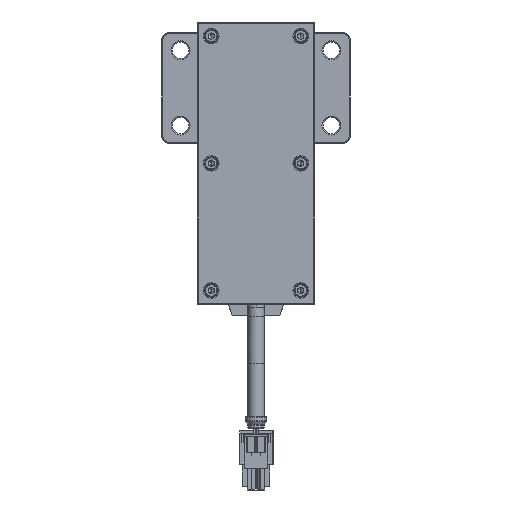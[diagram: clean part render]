
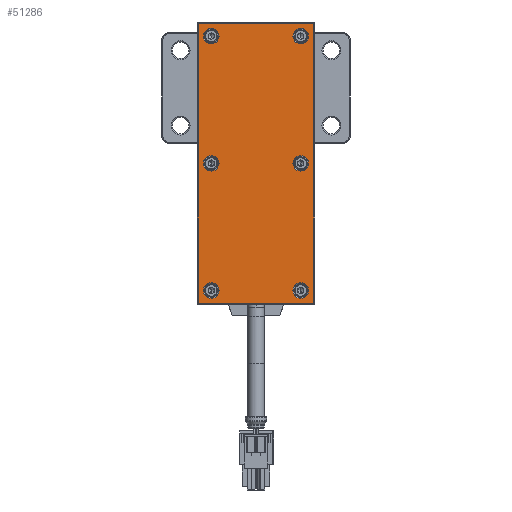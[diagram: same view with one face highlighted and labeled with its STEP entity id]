
A CAD part, front view. The second image highlights one B-rep face of the part: STEP entity #51286.
In plain terms, the highlighted planar face has unit normal (0, -1, 0).
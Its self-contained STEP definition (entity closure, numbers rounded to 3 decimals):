
#49875=CARTESIAN_POINT('',(59.,-4.5,-24.));
#49876=DIRECTION('',(0.,-1.,0.));
#49877=DIRECTION('',(0.,0.,-1.));
#49878=AXIS2_PLACEMENT_3D('',#49875,#49876,#49877);
#49880=DIRECTION('',(1.,0.,0.));
#49881=VECTOR('',#49880,118.);
#49882=CARTESIAN_POINT('',(-59.,-4.5,
-24.5));
#49883=LINE('',#49882,#49881);
#49884=CARTESIAN_POINT('',(-59.,-4.5,-24.));
#49885=DIRECTION('',(0.,-1.,0.));
#49886=DIRECTION('',(-1.,0.,0.));
#49887=AXIS2_PLACEMENT_3D('',#49884,#49885,#49886);
#49889=DIRECTION('',(0.,0.,-1.));
#49890=VECTOR('',#49889,48.);
#49891=CARTESIAN_POINT('',(-59.5,-4.5,
24.));
#49892=LINE('',#49891,#49890);
#49893=CARTESIAN_POINT('',(-59.,-4.5,24.));
#49894=DIRECTION('',(0.,-1.,0.));
#49895=DIRECTION('',(0.,0.,1.));
#49896=AXIS2_PLACEMENT_3D('',#49893,#49894,#49895);
#49898=DIRECTION('',(-1.,0.,0.));
#49899=VECTOR('',#49898,118.);
#49900=CARTESIAN_POINT('',(59.,-4.5,
24.5));
#49901=LINE('',#49900,#49899);
#49902=CARTESIAN_POINT('',(59.,-4.5,24.));
#49903=DIRECTION('',(0.,-1.,0.));
#49904=DIRECTION('',(1.,0.,0.));
#49905=AXIS2_PLACEMENT_3D('',#49902,#49903,#49904);
#49907=DIRECTION('',(0.,0.,1.));
#49908=VECTOR('',#49907,48.);
#49909=CARTESIAN_POINT('',(59.5,-4.5,
-24.));
#49910=LINE('',#49909,#49908);
#49911=CARTESIAN_POINT('',(-54.,-4.5,-19.));
#49912=DIRECTION('',(0.,1.,0.));
#49913=DIRECTION('',(1.,0.,0.));
#49914=AXIS2_PLACEMENT_3D('',#49911,#49912,#49913);
#49916=CARTESIAN_POINT('',(-54.,-4.5,-19.));
#49917=DIRECTION('',(0.,1.,0.));
#49918=DIRECTION('',(-1.,0.,0.));
#49919=AXIS2_PLACEMENT_3D('',#49916,#49917,#49918);
#49921=CARTESIAN_POINT('',(0.,-4.5,-19.));
#49922=DIRECTION('',(0.,1.,0.));
#49923=DIRECTION('',(1.,0.,0.));
#49924=AXIS2_PLACEMENT_3D('',#49921,#49922,#49923);
#49926=CARTESIAN_POINT('',(0.,-4.5,-19.));
#49927=DIRECTION('',(0.,1.,0.));
#49928=DIRECTION('',(-1.,0.,0.));
#49929=AXIS2_PLACEMENT_3D('',#49926,#49927,#49928);
#49931=CARTESIAN_POINT('',(54.,-4.5,-19.));
#49932=DIRECTION('',(0.,1.,0.));
#49933=DIRECTION('',(1.,0.,0.));
#49934=AXIS2_PLACEMENT_3D('',#49931,#49932,#49933);
#49936=CARTESIAN_POINT('',(54.,-4.5,-19.));
#49937=DIRECTION('',(0.,1.,0.));
#49938=DIRECTION('',(-1.,0.,0.));
#49939=AXIS2_PLACEMENT_3D('',#49936,#49937,#49938);
#49941=CARTESIAN_POINT('',(54.,-4.5,19.));
#49942=DIRECTION('',(0.,1.,0.));
#49943=DIRECTION('',(1.,0.,0.));
#49944=AXIS2_PLACEMENT_3D('',#49941,#49942,#49943);
#49946=CARTESIAN_POINT('',(54.,-4.5,19.));
#49947=DIRECTION('',(0.,1.,0.));
#49948=DIRECTION('',(-1.,0.,0.));
#49949=AXIS2_PLACEMENT_3D('',#49946,#49947,#49948);
#49951=CARTESIAN_POINT('',(0.,-4.5,19.));
#49952=DIRECTION('',(0.,1.,0.));
#49953=DIRECTION('',(1.,0.,0.));
#49954=AXIS2_PLACEMENT_3D('',#49951,#49952,#49953);
#49956=CARTESIAN_POINT('',(0.,-4.5,19.));
#49957=DIRECTION('',(0.,1.,0.));
#49958=DIRECTION('',(-1.,0.,0.));
#49959=AXIS2_PLACEMENT_3D('',#49956,#49957,#49958);
#49961=CARTESIAN_POINT('',(-54.,-4.5,19.));
#49962=DIRECTION('',(0.,1.,0.));
#49963=DIRECTION('',(1.,0.,0.));
#49964=AXIS2_PLACEMENT_3D('',#49961,#49962,#49963);
#49966=CARTESIAN_POINT('',(-54.,-4.5,19.));
#49967=DIRECTION('',(0.,1.,0.));
#49968=DIRECTION('',(-1.,0.,0.));
#49969=AXIS2_PLACEMENT_3D('',#49966,#49967,#49968);
#51027=CARTESIAN_POINT('',(59.,-4.5,-24.5));
#51028=CARTESIAN_POINT('',(59.5,-4.5,-24.));
#51029=VERTEX_POINT('',#51027);
#51030=VERTEX_POINT('',#51028);
#51035=CARTESIAN_POINT('',(59.5,-4.5,
24.));
#51036=VERTEX_POINT('',#51035);
#51039=CARTESIAN_POINT('',(59.,-4.5,24.5));
#51040=VERTEX_POINT('',#51039);
#51043=CARTESIAN_POINT('',(-59.,-4.5,
24.5));
#51044=VERTEX_POINT('',#51043);
#51047=CARTESIAN_POINT('',(-59.5,-4.5,24.));
#51048=VERTEX_POINT('',#51047);
#51051=CARTESIAN_POINT('',(-59.5,-4.5,
-24.));
#51052=VERTEX_POINT('',#51051);
#51055=CARTESIAN_POINT('',(-59.,-4.5,-24.5));
#51056=VERTEX_POINT('',#51055);
#51083=CARTESIAN_POINT('',(-50.7,-4.5,-19.));
#51084=CARTESIAN_POINT('',(-57.3,-4.5,-19.));
#51085=VERTEX_POINT('',#51083);
#51086=VERTEX_POINT('',#51084);
#51099=CARTESIAN_POINT('',(3.3,-4.5,-19.));
#51100=CARTESIAN_POINT('',(-3.3,-4.5,-19.));
#51101=VERTEX_POINT('',#51099);
#51102=VERTEX_POINT('',#51100);
#51123=CARTESIAN_POINT('',(57.3,-4.5,-19.));
#51124=CARTESIAN_POINT('',(50.7,-4.5,-19.));
#51125=VERTEX_POINT('',#51123);
#51126=VERTEX_POINT('',#51124);
#51139=CARTESIAN_POINT('',(57.3,-4.5,19.));
#51140=CARTESIAN_POINT('',(50.7,-4.5,19.));
#51141=VERTEX_POINT('',#51139);
#51142=VERTEX_POINT('',#51140);
#51147=CARTESIAN_POINT('',(3.3,-4.5,19.));
#51148=CARTESIAN_POINT('',(-3.3,-4.5,19.));
#51149=VERTEX_POINT('',#51147);
#51150=VERTEX_POINT('',#51148);
#51171=CARTESIAN_POINT('',(-50.7,-4.5,19.));
#51172=CARTESIAN_POINT('',(-57.3,-4.5,19.));
#51173=VERTEX_POINT('',#51171);
#51174=VERTEX_POINT('',#51172);
#51227=CARTESIAN_POINT('',(0.,-4.5,0.));
#51228=DIRECTION('',(0.,1.,0.));
#51229=DIRECTION('',(1.,0.,0.));
#51230=AXIS2_PLACEMENT_3D('',#51227,#51228,#51229);
#51231=PLANE('',#51230);
#51233=ORIENTED_EDGE('',*,*,#51232,.F.);
#51235=ORIENTED_EDGE('',*,*,#51234,.F.);
#51237=ORIENTED_EDGE('',*,*,#51236,.F.);
#51239=ORIENTED_EDGE('',*,*,#51238,.F.);
#51241=ORIENTED_EDGE('',*,*,#51240,.F.);
#51243=ORIENTED_EDGE('',*,*,#51242,.F.);
#51245=ORIENTED_EDGE('',*,*,#51244,.F.);
#51247=ORIENTED_EDGE('',*,*,#51246,.F.);
#51248=EDGE_LOOP('',(#51233,#51235,#51237,#51239,#51241,#51243,#51245,#51247));
#51249=FACE_OUTER_BOUND('',#51248,.F.);
#51251=ORIENTED_EDGE('',*,*,#51250,.F.);
#51253=ORIENTED_EDGE('',*,*,#51252,.F.);
#51254=EDGE_LOOP('',(#51251,#51253));
#51255=FACE_BOUND('',#51254,.F.);
#51257=ORIENTED_EDGE('',*,*,#51256,.F.);
#51259=ORIENTED_EDGE('',*,*,#51258,.F.);
#51260=EDGE_LOOP('',(#51257,#51259));
#51261=FACE_BOUND('',#51260,.F.);
#51263=ORIENTED_EDGE('',*,*,#51262,.F.);
#51265=ORIENTED_EDGE('',*,*,#51264,.F.);
#51266=EDGE_LOOP('',(#51263,#51265));
#51267=FACE_BOUND('',#51266,.F.);
#51269=ORIENTED_EDGE('',*,*,#51268,.F.);
#51271=ORIENTED_EDGE('',*,*,#51270,.F.);
#51272=EDGE_LOOP('',(#51269,#51271));
#51273=FACE_BOUND('',#51272,.F.);
#51275=ORIENTED_EDGE('',*,*,#51274,.F.);
#51277=ORIENTED_EDGE('',*,*,#51276,.F.);
#51278=EDGE_LOOP('',(#51275,#51277));
#51279=FACE_BOUND('',#51278,.F.);
#51281=ORIENTED_EDGE('',*,*,#51280,.F.);
#51283=ORIENTED_EDGE('',*,*,#51282,.F.);
#51284=EDGE_LOOP('',(#51281,#51283));
#51285=FACE_BOUND('',#51284,.F.);
#51286=ADVANCED_FACE('',(#51249,#51255,#51261,#51267,#51273,#51279,#51285),
#51231,.F.);
#49879=CIRCLE('',#49878,0.5);
#49888=CIRCLE('',#49887,0.5);
#49897=CIRCLE('',#49896,0.5);
#49906=CIRCLE('',#49905,0.5);
#49915=CIRCLE('',#49914,3.3);
#49920=CIRCLE('',#49919,3.3);
#49925=CIRCLE('',#49924,3.3);
#49930=CIRCLE('',#49929,3.3);
#49935=CIRCLE('',#49934,3.3);
#49940=CIRCLE('',#49939,3.3);
#49945=CIRCLE('',#49944,3.3);
#49950=CIRCLE('',#49949,3.3);
#49955=CIRCLE('',#49954,3.3);
#49960=CIRCLE('',#49959,3.3);
#49965=CIRCLE('',#49964,3.3);
#49970=CIRCLE('',#49969,3.3);
#51232=EDGE_CURVE('',#51029,#51030,#49879,.T.);
#51234=EDGE_CURVE('',#51056,#51029,#49883,.T.);
#51236=EDGE_CURVE('',#51052,#51056,#49888,.T.);
#51238=EDGE_CURVE('',#51048,#51052,#49892,.T.);
#51240=EDGE_CURVE('',#51044,#51048,#49897,.T.);
#51242=EDGE_CURVE('',#51040,#51044,#49901,.T.);
#51244=EDGE_CURVE('',#51036,#51040,#49906,.T.);
#51246=EDGE_CURVE('',#51030,#51036,#49910,.T.);
#51250=EDGE_CURVE('',#51085,#51086,#49915,.T.);
#51252=EDGE_CURVE('',#51086,#51085,#49920,.T.);
#51256=EDGE_CURVE('',#51101,#51102,#49925,.T.);
#51258=EDGE_CURVE('',#51102,#51101,#49930,.T.);
#51262=EDGE_CURVE('',#51125,#51126,#49935,.T.);
#51264=EDGE_CURVE('',#51126,#51125,#49940,.T.);
#51268=EDGE_CURVE('',#51141,#51142,#49945,.T.);
#51270=EDGE_CURVE('',#51142,#51141,#49950,.T.);
#51274=EDGE_CURVE('',#51149,#51150,#49955,.T.);
#51276=EDGE_CURVE('',#51150,#51149,#49960,.T.);
#51280=EDGE_CURVE('',#51173,#51174,#49965,.T.);
#51282=EDGE_CURVE('',#51174,#51173,#49970,.T.);
